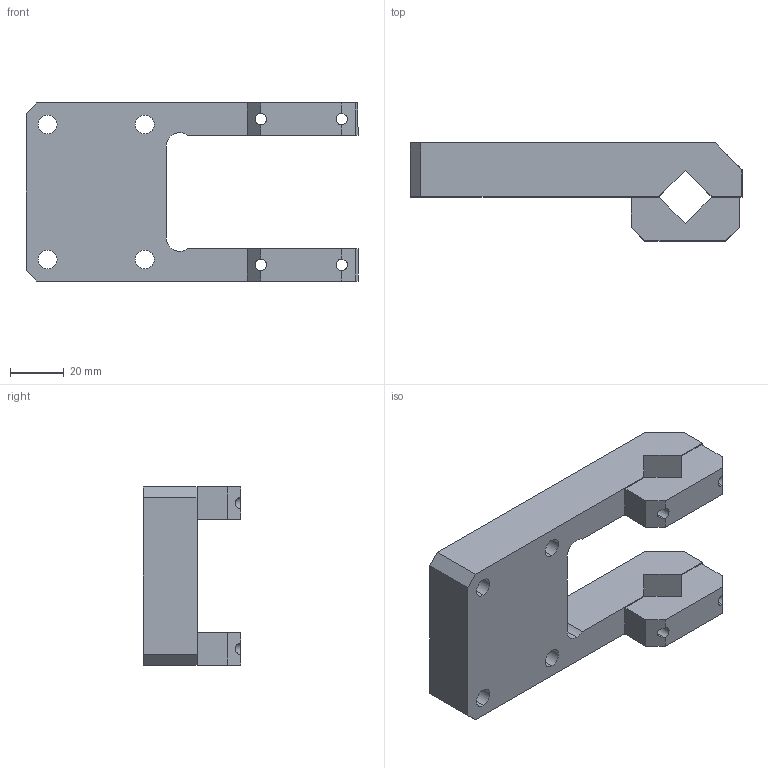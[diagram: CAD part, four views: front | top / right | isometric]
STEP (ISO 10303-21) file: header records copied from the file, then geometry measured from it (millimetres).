
FILE_DESCRIPTION (( 'STEP AP203' ), '1' );
FILE_NAME ('BC-40-ML.STEP', '2017-02-15T11:49:37', ( '' ), ( '' ), 'SwSTEP 2.0', 'SolidWorks 2012', '' );
FILE_SCHEMA (( 'CONFIG_CONTROL_DESIGN' ));
Length unit declared in the file: millimetre
Products named in the file (1): BC-40-ML
Bounding box: 123 x 36.29 x 66 mm (x, y, z)
Volume: 103705.3 mm3; surface area: 28426.9 mm2
Topology: 3 solids, 3 shells, 82 faces, 226 edges, 148 vertices
Faces by surface type: plane 46, cylinder 36
Entity records: 2733 total; most frequent: CARTESIAN_POINT 487, ORIENTED_EDGE 452, DIRECTION 448, EDGE_CURVE 226, VECTOR 150, LINE 150, AXIS2_PLACEMENT_3D 149, VERTEX_POINT 148
